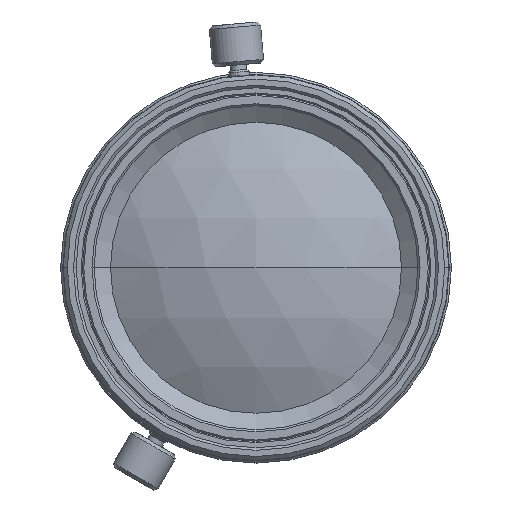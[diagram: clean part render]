
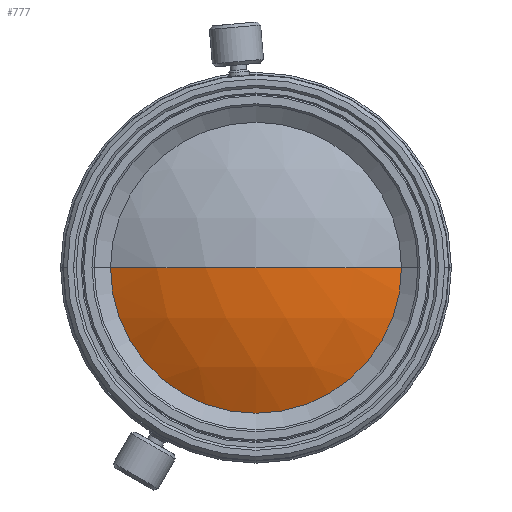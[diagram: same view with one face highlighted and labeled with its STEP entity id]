
A CAD part, left-side view. The second image highlights one B-rep face of the part: STEP entity #777.
In plain terms, the highlighted spherical face has radius 30.26 mm.
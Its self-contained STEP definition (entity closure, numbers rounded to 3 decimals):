
#121 = ORIENTED_EDGE ( 'NONE', *, *, #2676, .F. ) ;
#169 = DIRECTION ( 'NONE',  ( 0., 0., -1. ) ) ;
#601 = VERTEX_POINT ( 'NONE', #2918 ) ;
#688 = DIRECTION ( 'NONE',  ( -1., 0., 0. ) ) ;
#774 = EDGE_CURVE ( 'NONE', #601, #2282, #2591, .T. ) ;
#777 = ADVANCED_FACE ( 'NONE', ( #1280 ), #1917, .T. ) ;
#840 = ORIENTED_EDGE ( 'NONE', *, *, #1371, .T. ) ;
#1144 = DIRECTION ( 'NONE',  ( 0., -1., 0. ) ) ;
#1280 = FACE_OUTER_BOUND ( 'NONE', #2107, .T. ) ;
#1371 = EDGE_CURVE ( 'NONE', #601, #3136, #3174, .T. ) ;
#1408 = CARTESIAN_POINT ( 'NONE',  ( -33.76, 0., 0. ) ) ;
#1487 = CARTESIAN_POINT ( 'NONE',  ( -60.508, 0., 0. ) ) ;
#1531 = ORIENTED_EDGE ( 'NONE', *, *, #774, .F. ) ;
#1688 = DIRECTION ( 'NONE',  ( 0., 1., 0. ) ) ;
#1727 = CARTESIAN_POINT ( 'NONE',  ( -60.508, 14.15, 0. ) ) ;
#1776 = DIRECTION ( 'NONE',  ( 0., 1., 0. ) ) ;
#1917 = SPHERICAL_SURFACE ( 'NONE', #3271, 30.26 ) ;
#2107 = EDGE_LOOP ( 'NONE', ( #1531, #840, #121 ) ) ;
#2260 = AXIS2_PLACEMENT_3D ( 'NONE', #1487, #3321, #1776 ) ;
#2282 = VERTEX_POINT ( 'NONE', #2697 ) ;
#2380 = AXIS2_PLACEMENT_3D ( 'NONE', #2435, #169, #688 ) ;
#2422 = DIRECTION ( 'NONE',  ( 0., 0., 1. ) ) ;
#2435 = CARTESIAN_POINT ( 'NONE',  ( -33.76, 0., 0. ) ) ;
#2591 = CIRCLE ( 'NONE', #2914, 30.26 ) ;
#2676 = EDGE_CURVE ( 'NONE', #2282, #3136, #3021, .T. ) ;
#2697 = CARTESIAN_POINT ( 'NONE',  ( -60.508, -14.15, 0. ) ) ;
#2914 = AXIS2_PLACEMENT_3D ( 'NONE', #1408, #2975, #1144 ) ;
#2918 = CARTESIAN_POINT ( 'NONE',  ( -64.02, 0., 0. ) ) ;
#2975 = DIRECTION ( 'NONE',  ( 0., 0., 1. ) ) ;
#3021 = CIRCLE ( 'NONE', #2260, 14.15 ) ;
#3136 = VERTEX_POINT ( 'NONE', #1727 ) ;
#3174 = CIRCLE ( 'NONE', #2380, 30.26 ) ;
#3250 = CARTESIAN_POINT ( 'NONE',  ( -33.76, 0., 0. ) ) ;
#3271 = AXIS2_PLACEMENT_3D ( 'NONE', #3250, #2422, #1688 ) ;
#3321 = DIRECTION ( 'NONE',  ( 1., 0., 0. ) ) ;
